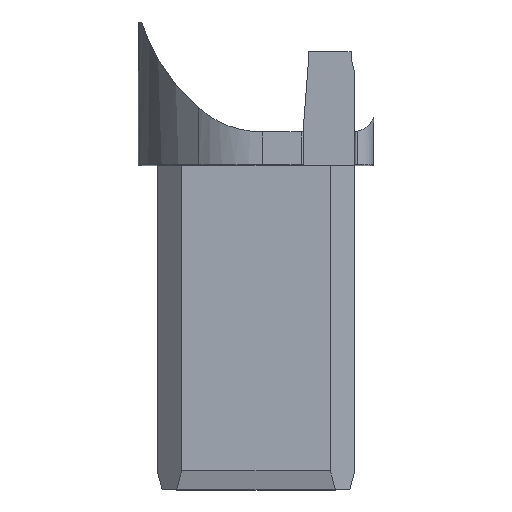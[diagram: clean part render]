
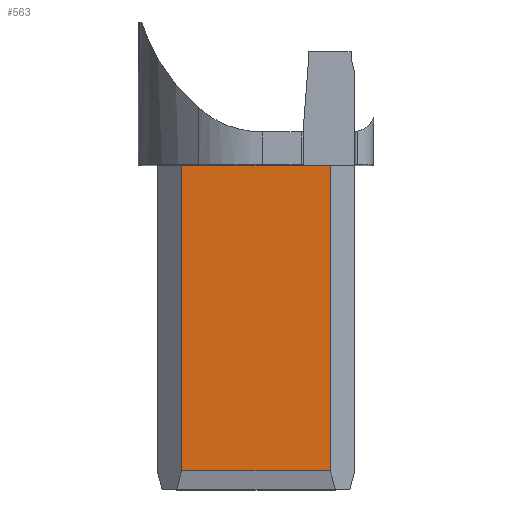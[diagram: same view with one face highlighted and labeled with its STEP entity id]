
A CAD part, top view. The second image highlights one B-rep face of the part: STEP entity #563.
In plain terms, the highlighted planar face has unit normal (0, 0, 1).
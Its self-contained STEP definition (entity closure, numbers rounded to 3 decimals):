
#124 = DIRECTION ( 'NONE',  ( 0., 1., 0. ) ) ;
#137 = VERTEX_POINT ( 'NONE', #1161 ) ;
#171 = VECTOR ( 'NONE', #908, 1000. ) ;
#239 = PLANE ( 'NONE',  #1522 ) ;
#270 = CARTESIAN_POINT ( 'NONE',  ( -7.9, -34.5, 10.5 ) ) ;
#321 = DIRECTION ( 'NONE',  ( -1., 0., 0. ) ) ;
#431 = VERTEX_POINT ( 'NONE', #1714 ) ;
#446 = LINE ( 'NONE', #270, #1308 ) ;
#563 = ADVANCED_FACE ( 'NONE', ( #1038 ), #239, .F. ) ;
#592 = DIRECTION ( 'NONE',  ( 0., -1., 0. ) ) ;
#723 = DIRECTION ( 'NONE',  ( -1., 0., 0. ) ) ;
#742 = EDGE_CURVE ( 'NONE', #1289, #137, #1171, .T. ) ;
#768 = EDGE_CURVE ( 'NONE', #431, #1289, #446, .T. ) ;
#812 = CARTESIAN_POINT ( 'NONE',  ( -7.9, -32.5, 10.5 ) ) ;
#843 = ORIENTED_EDGE ( 'NONE', *, *, #768, .T. ) ;
#880 = CARTESIAN_POINT ( 'NONE',  ( -10.5, -34.5, 10.5 ) ) ;
#908 = DIRECTION ( 'NONE',  ( 1., 0., 0. ) ) ;
#948 = CARTESIAN_POINT ( 'NONE',  ( 7.9, -34.5, 10.5 ) ) ;
#986 = VECTOR ( 'NONE', #124, 1000. ) ;
#1033 = ORIENTED_EDGE ( 'NONE', *, *, #742, .T. ) ;
#1038 = FACE_OUTER_BOUND ( 'NONE', #2029, .T. ) ;
#1053 = CARTESIAN_POINT ( 'NONE',  ( 7.9, 0., 10.5 ) ) ;
#1121 = LINE ( 'NONE', #1610, #1798 ) ;
#1161 = CARTESIAN_POINT ( 'NONE',  ( 7.9, -32.5, 10.5 ) ) ;
#1171 = LINE ( 'NONE', #2004, #171 ) ;
#1195 = EDGE_CURVE ( 'NONE', #137, #1744, #1217, .T. ) ;
#1217 = LINE ( 'NONE', #948, #986 ) ;
#1289 = VERTEX_POINT ( 'NONE', #812 ) ;
#1308 = VECTOR ( 'NONE', #592, 1000. ) ;
#1481 = ORIENTED_EDGE ( 'NONE', *, *, #1725, .T. ) ;
#1518 = DIRECTION ( 'NONE',  ( 0., 0., -1. ) ) ;
#1522 = AXIS2_PLACEMENT_3D ( 'NONE', #880, #1518, #723 ) ;
#1610 = CARTESIAN_POINT ( 'NONE',  ( -10.5, 0., 10.5 ) ) ;
#1714 = CARTESIAN_POINT ( 'NONE',  ( -7.9, 0., 10.5 ) ) ;
#1725 = EDGE_CURVE ( 'NONE', #1744, #431, #1121, .T. ) ;
#1744 = VERTEX_POINT ( 'NONE', #1053 ) ;
#1798 = VECTOR ( 'NONE', #321, 1000. ) ;
#2004 = CARTESIAN_POINT ( 'NONE',  ( -10.5, -32.5, 10.5 ) ) ;
#2029 = EDGE_LOOP ( 'NONE', ( #843, #1033, #2031, #1481 ) ) ;
#2031 = ORIENTED_EDGE ( 'NONE', *, *, #1195, .T. ) ;
